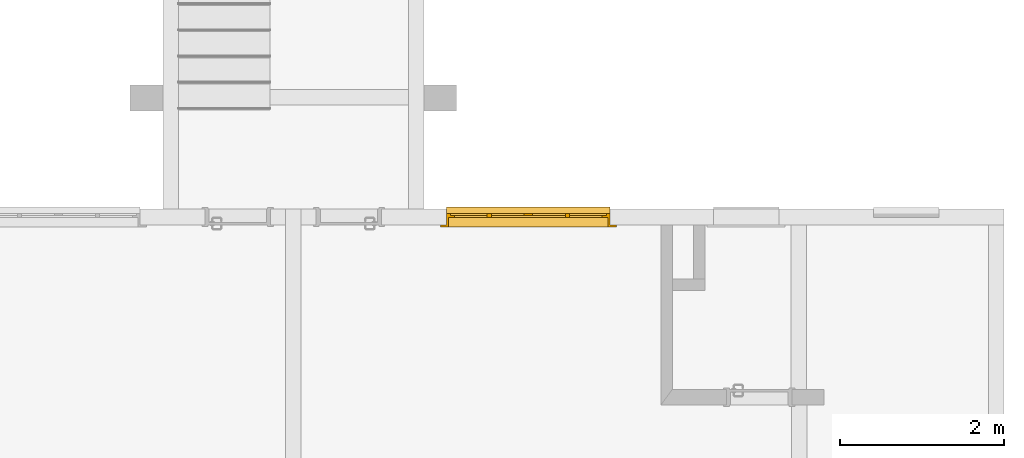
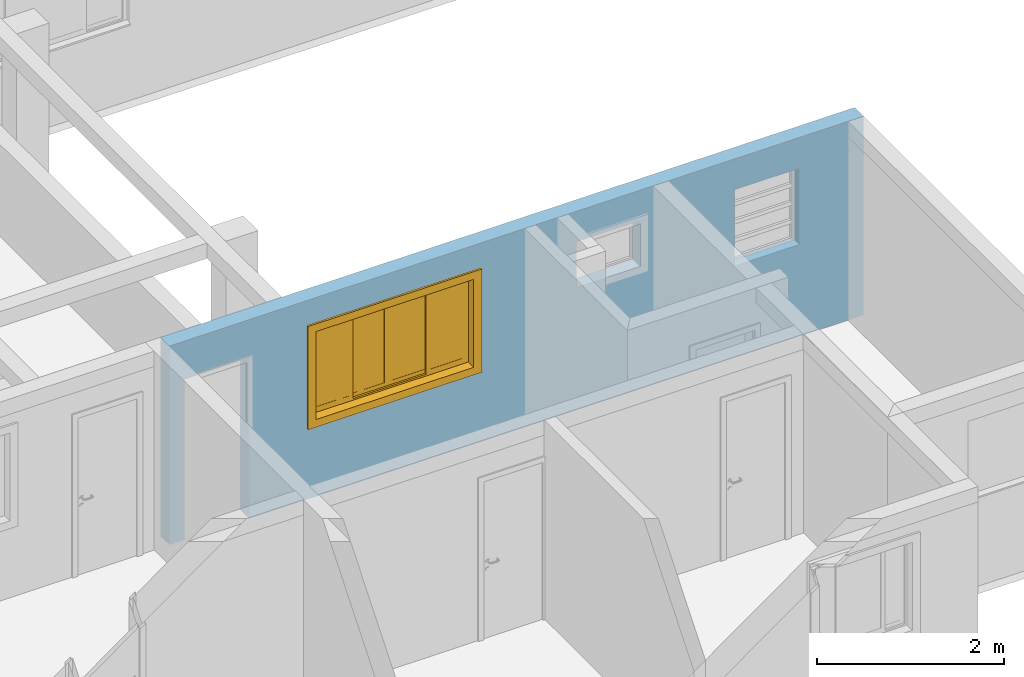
# One storey, part 21 of 43: 1 window, 4 openings, plus 1 element that does not belong to this part.
"""IFC2X3 building model written with IfcOpenShell, lengths in millimetres."""

from ifc_helpers import new_model, entity, si_unit, converted_unit, derived_unit, money_unit, direction, frame, origin_with_axes, origin_2d_with_axis, place, context, subcontext, project, spatial, polyline, rectangle, outline, extrude, open_shell, faceted_brep, surface_model, source, transform, mapped, material, layer, layer_set, layer_usage, type_object, element, fill, save


model = new_model("IFC2X3")

# Units and contexts
model_context = context("Model", 3, precision=0.01, world=origin_with_axes(), true_north=direction((0.0, 1.0)))
body_context = subcontext(model_context, "Body", "Model", "MODEL_VIEW")
ifc_project = project(units=[si_unit("LENGTHUNIT", "METRE", prefix="MILLI"), si_unit("AREAUNIT", "SQUARE_METRE"), si_unit("VOLUMEUNIT", "CUBIC_METRE"), converted_unit("PLANEANGLEUNIT", "DEGREE", entity("IfcPlaneAngleMeasure", 0.0174532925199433), si_unit("PLANEANGLEUNIT", "RADIAN"), dimensions=[0, 0, 0, 0, 0, 0, 0]), money_unit("USD"), converted_unit("TIMEUNIT", "Year", entity("IfcTimeMeasure", 31557600.0), si_unit("TIMEUNIT", "SECOND"), dimensions=[0, 0, 1, 0, 0, 0, 0]), si_unit("MASSUNIT", "GRAM", prefix="KILO"), si_unit("THERMODYNAMICTEMPERATUREUNIT", "DEGREE_CELSIUS"), si_unit("LUMINOUSINTENSITYUNIT", "LUMEN"), si_unit("ENERGYUNIT", "JOULE", prefix="MEGA"), derived_unit("THERMALCONDUCTANCEUNIT", [(si_unit("POWERUNIT", "WATT"), 1), (si_unit("LENGTHUNIT", "METRE"), -1), (si_unit("THERMODYNAMICTEMPERATUREUNIT", "KELVIN"), -1)]), derived_unit("SPECIFICHEATCAPACITYUNIT", [(si_unit("ENERGYUNIT", "JOULE"), 1), (si_unit("MASSUNIT", "GRAM", prefix="KILO"), -1), (si_unit("THERMODYNAMICTEMPERATUREUNIT", "KELVIN"), -1)]), derived_unit("MASSDENSITYUNIT", [(si_unit("MASSUNIT", "GRAM", prefix="KILO"), 1), (si_unit("VOLUMEUNIT", "CUBIC_METRE"), -1)])], contexts=[model_context])

# Site, building, storey
site_placement = place(None, origin_with_axes())
site = spatial("IfcSite", under=ifc_project, at=site_placement, Name="Local", CompositionType="ELEMENT")
building_placement = place(site_placement, origin_with_axes())
building = spatial("IfcBuilding", under=site, at=building_placement, Name="Construção", CompositionType="ELEMENT")
storey_placement = place(building_placement, origin_with_axes())
storey = spatial("IfcBuildingStorey", under=building, at=storey_placement, Name="Pavimento Tipo", CompositionType="ELEMENT", Elevation=0.0)

# Wall, openings, window
ifc_material = material(Name="Concreto - Estrutural")
ifc_layer = layer(ifc_material, 190.0, ventilated="UNKNOWN")
ifc_layer_set = layer_set([ifc_layer], Name="Concreto - Estrutural 190")
ifc_layer_usage = layer_usage(ifc_layer_set, "AXIS2", "NEGATIVE", 0.0)
wall_type = type_object("IfcWallType", Name="Concreto - Estrutural 190", PredefinedType="NOTDEFINED")
wall_placement = place(storey_placement, frame((72476.96486497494, -1757.538479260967, 0.0), z_axis=(0.0, 0.0, 1.0), x_axis=(-1.0, 0.0, 0.0)))
wall = element("IfcWallStandardCase", 1, at=wall_placement, inside=storey, type_object=wall_type, material=ifc_layer_usage, Name="Apartamento 4 - Parede-001", context=body_context, shape_type="SweptSolid", body=[
    extrude(outline(polyline([(0.0, -189.9999999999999), (8584.7651331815, -189.9999999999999), (8584.7651331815, 0.0), (0.0, 0.0), (0.0, -189.9999999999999)])), origin_with_axes(), (0.0, 0.0, 1.0), 2600.0),
])
opening_1_placement = place(wall_placement, frame((1195.000000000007, 0.0, 1200.0), z_axis=(0.0, 0.0, 1.0), x_axis=(1.0, 0.0, 0.0)))
element("IfcOpeningElement", 2, at=opening_1_placement, cuts=wall, Name="Apartamento 4 - J03", context=body_context, shape_type="SweptSolid", body=[
    extrude(rectangle(XDim=800.0000000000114, YDim=1000.0, at=origin_2d_with_axis()), frame((0.0, -139.9999999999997, 500.0), z_axis=(0.0, -1.0, 0.0), x_axis=(-1.0, 0.0, 0.0)), (0.0, 0.0, -1.0), 330.0),
    extrude(rectangle(XDim=800.0000000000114, YDim=1000.0, at=origin_2d_with_axis()), frame((0.0, -139.9999999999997, 500.0), z_axis=(0.0, 1.0, 0.0), x_axis=(-1.0, 0.0, 0.0)), (0.0, 0.0, -1.0), 240.0),
    extrude(rectangle(XDim=800.0000000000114, YDim=30.00000000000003, at=origin_2d_with_axis()), frame((0.0, -105.0, -15.00000000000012), z_axis=(0.0, 1.0, 0.0), x_axis=(-1.0, 0.0, 0.0)), (0.0, 0.0, -1.0), 225.0),
])
opening_2_placement = place(wall_placement, frame((3149.999999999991, 0.0, 1600.0), z_axis=(0.0, 0.0, 1.0), x_axis=(1.0, 0.0, 0.0)))
element("IfcOpeningElement", 3, at=opening_2_placement, cuts=wall, Name="Apartamento 4 - J02", context=body_context, shape_type="SweptSolid", body=[
    extrude(rectangle(XDim=800.0000000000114, YDim=600.0000000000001, at=origin_2d_with_axis()), frame((0.0, 189.9999999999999, 300.0000000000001), z_axis=(0.0, -1.0, 0.0), x_axis=(-1.0, 0.0, 0.0)), (0.0, 0.0, 1.0), 570.0000000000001),
    extrude(rectangle(XDim=800.0000000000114, YDim=30.00000000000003, at=origin_2d_with_axis()), frame((0.0, -155.0000000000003, -15.00000000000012), z_axis=(0.0, 1.0, 0.0), x_axis=(-1.0, 0.0, 0.0)), (0.0, 0.0, -1.0), 225.0),
    extrude(rectangle(XDim=949.9999999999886, YDim=750.0000000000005, at=origin_2d_with_axis()), frame((0.0, 0.0, 300.0000000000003), z_axis=(0.0, -1.0, 0.0), x_axis=(-1.0, 0.0, 0.0)), (0.0, 0.0, -1.0), 190.0),
])
opening_3_placement = place(wall_placement, frame((5810.000000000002, 0.0, 1000.0), z_axis=(0.0, 0.0, 1.0), x_axis=(1.0, 0.0, 0.0)))
opening_3 = element("IfcOpeningElement", 4, at=opening_3_placement, cuts=wall, Name="Apartamento 4 - J01", context=body_context, shape_type="SweptSolid", body=[
    extrude(rectangle(XDim=2000.0, YDim=1200.0, at=origin_2d_with_axis()), frame((0.0, -139.9999999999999, 600.0000000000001), z_axis=(0.0, 1.0, 0.0), x_axis=(1.0, 0.0, 0.0)), (0.0, 0.0, 1.0), 330.0),
    extrude(rectangle(XDim=2000.0, YDim=1200.0, at=origin_2d_with_axis()), frame((0.0, -139.9999999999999, 600.0000000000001), z_axis=(0.0, -1.0, 0.0), x_axis=(1.0, 0.0, 0.0)), (0.0, 0.0, 1.0), 240.0),
    extrude(rectangle(XDim=2150.000000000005, YDim=1350.0, at=origin_2d_with_axis()), frame((0.0, 0.0, 600.0000000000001), z_axis=(0.0, 1.0, 0.0), x_axis=(1.0, 0.0, 0.0)), (0.0, 0.0, 1.0), 240.0),
])
opening_4_placement = place(wall_placement, frame((8000.0, 0.0, 0.0), z_axis=(0.0, 0.0, 1.0), x_axis=(1.0, 0.0, 0.0)))
element("IfcOpeningElement", 5, at=opening_4_placement, cuts=wall, Name="Apartamento 4 - P01", context=body_context, shape_type="SweptSolid", body=[
    extrude(rectangle(XDim=800.0000000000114, YDim=2100.0, at=origin_2d_with_axis()), frame((0.0, 189.9999999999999, 1050.0), z_axis=(0.0, -1.0, 0.0), x_axis=(1.0, 0.0, 0.0)), (0.0, 0.0, 1.0), 570.0000000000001),
    extrude(rectangle(XDim=870.0000000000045, YDim=2135.0, at=origin_2d_with_axis()), frame((0.0, 0.0, 1067.5), z_axis=(0.0, -1.0, 0.0), x_axis=(1.0, 0.0, 0.0)), (0.0, 0.0, -1.0), 190.0),
    extrude(rectangle(XDim=870.0000000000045, YDim=2135.0, at=origin_2d_with_axis()), frame((0.0, -189.9999999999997, 1067.5), z_axis=(0.0, 1.0, 0.0), x_axis=(1.0, 0.0, 0.0)), (0.0, 0.0, -1.0), 190.0),
])
window_style = type_object("IfcWindowStyle", Name="Janela de Correr 4-Folhas 27", ConstructionType="NOTDEFINED", OperationType="USERDEFINED", ParameterTakesPrecedence=False, Sizeable=False)
shared_shape = source(origin_with_axes(), body_context, "Body", "SurfaceModel", [
    faceted_brep([(1000.0, 0.0, 5.0), (1000.0, 50.0, 5.000000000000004), (1000.0, 50.0, 27.37961103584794), (1000.0, 0.0, 30.0), (-1000.0, 0.0, 5.0), (-1000.0, 50.0, 5.000000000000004), (-1000.0, 80.0, 5.000000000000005), (1000.0, 80.0, 5.000000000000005), (1000.0, 80.0, 25.8073776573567), (-1000.0, 80.0, 25.8073776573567), (-1000.0, 50.0, 27.37961103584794), (-1000.0, 0.0, 30.0)], [[[0, 1, 2, 3]], [[0, 4, 5, 6, 7, 1]], [[1, 7, 8, 2]], [[3, 2, 8, 9, 10, 11]], [[4, 0, 3, 11]], [[5, 4, 11, 10]], [[6, 5, 10, 9]], [[7, 6, 9, 8]]]),
    faceted_brep([(1000.0, 0.0, 0.0), (1000.0, 50.0, 0.0), (1000.0, 50.0, 5.0), (1000.0, 0.0, 5.0), (-1000.0, 0.0, 0.0), (-1000.0, 50.0, 0.0), (-1000.0, 50.0, 5.0), (-1000.0, 0.0, 5.0)], [[[0, 1, 2, 3]], [[0, 4, 5, 1]], [[1, 5, 6, 2]], [[3, 2, 6, 7]], [[4, 0, 3, 7]], [[5, 4, 7, 6]]]),
    faceted_brep([(1000.0, -50.0, 0.0), (1000.0, -140.0, 0.0), (-1000.0, -140.0, 0.0), (-1000.0, -50.0, 0.0), (1000.0, -50.00000000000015, 1200.0), (1000.0, -140.0000000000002, 1200.0), (-1000.0, -140.0000000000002, 1200.0), (975.0, -140.0, 24.99999999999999), (-975.0, -140.0, 24.99999999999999), (-975.0, -140.0000000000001, 1175.0), (975.0, -140.0000000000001, 1175.0), (-1000.0, -50.00000000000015, 1200.0), (975.0, -50.0, 24.99999999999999), (975.0, -50.00000000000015, 1175.0), (-975.0, -50.00000000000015, 1175.0), (-975.0, -50.0, 24.99999999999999)], [[[0, 1, 2, 3]], [[4, 5, 1, 0]], [[1, 5, 6, 2], [7, 8, 9, 10]], [[3, 2, 6, 11]], [[0, 3, 11, 4], [12, 13, 14, 15]], [[11, 6, 5, 4]], [[15, 8, 7, 12]], [[14, 9, 8, 15]], [[13, 10, 9, 14]], [[12, 7, 10, 13]]]),
    faceted_brep([(1075.0, -165.0, -75.00000000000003), (975.0, -165.0, 24.99999999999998), (975.0, -140.0, 24.99999999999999), (1075.0, -140.0, -75.00000000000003), (1075.0, -165.0000000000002, 1275.0), (975.0, -165.0000000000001, 1175.0), (975.0, -140.0000000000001, 1175.0), (1075.0, -140.0000000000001, 1275.0)], [[[0, 1, 2, 3]], [[0, 4, 5, 1]], [[1, 5, 6, 2]], [[3, 2, 6, 7]], [[4, 0, 3, 7]], [[5, 4, 7, 6]]]),
    faceted_brep([(-1075.0, -165.0000000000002, 1275.0), (-975.0, -165.0000000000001, 1175.0), (-975.0, -140.0000000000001, 1175.0), (-1075.0, -140.0000000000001, 1275.0), (-1075.0, -165.0, -75.00000000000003), (-975.0, -165.0, 24.99999999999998), (-975.0, -140.0, 24.99999999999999), (-1075.0, -140.0, -75.00000000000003)], [[[0, 1, 2, 3]], [[0, 4, 5, 1]], [[1, 5, 6, 2]], [[3, 2, 6, 7]], [[4, 0, 3, 7]], [[5, 4, 7, 6]]]),
    faceted_brep([(-1075.0, -165.0, -75.00000000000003), (-975.0, -165.0, 24.99999999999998), (-975.0, -140.0, 24.99999999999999), (-1075.0, -140.0, -75.00000000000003), (1075.0, -165.0, -75.00000000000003), (975.0, -165.0, 24.99999999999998), (975.0, -140.0, 24.99999999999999), (1075.0, -140.0, -75.00000000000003)], [[[0, 1, 2, 3]], [[0, 4, 5, 1]], [[1, 5, 6, 2]], [[3, 2, 6, 7]], [[4, 0, 3, 7]], [[5, 4, 7, 6]]]),
    faceted_brep([(1075.0, -165.0000000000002, 1275.0), (975.0, -165.0000000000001, 1175.0), (975.0, -140.0000000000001, 1175.0), (1075.0, -140.0000000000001, 1275.0), (-1075.0, -165.0000000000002, 1275.0), (-975.0, -165.0000000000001, 1175.0), (-975.0, -140.0000000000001, 1175.0), (-1075.0, -140.0000000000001, 1275.0)], [[[0, 1, 2, 3]], [[0, 4, 5, 1]], [[1, 5, 6, 2]], [[3, 2, 6, 7]], [[4, 0, 3, 7]], [[5, 4, 7, 6]]]),
    faceted_brep([(953.0, -50.00000000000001, 47.0), (953.0, -50.00000000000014, 1153.0), (953.0, 0.0, 1153.0), (953.0, 0.0, 47.00000000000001), (1000.0, -50.00000000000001, 47.0), (1000.0, -50.00000000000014, 1153.0), (1000.0, 0.0, 1153.0), (1000.0, 0.0, 47.00000000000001)], [[[0, 1, 2, 3]], [[0, 4, 5, 1]], [[1, 5, 6, 2]], [[3, 2, 6, 7]], [[4, 0, 3, 7]], [[5, 4, 7, 6]]]),
    faceted_brep([(-1000.0, -50.00000000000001, 47.0), (-1000.0, -50.00000000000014, 1153.0), (-1000.0, 0.0, 1153.0), (-1000.0, 0.0, 47.00000000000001), (-953.0, -50.00000000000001, 47.0), (-953.0, -50.00000000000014, 1153.0), (-953.0, 0.0, 1153.0), (-953.0, 0.0, 47.00000000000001)], [[[0, 1, 2, 3]], [[0, 4, 5, 1]], [[1, 5, 6, 2]], [[3, 2, 6, 7]], [[4, 0, 3, 7]], [[5, 4, 7, 6]]]),
    faceted_brep([(-1000.0, -50.00000000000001, 47.0), (-953.0, -50.00000000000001, 47.0), (-953.0, 0.0, 47.00000000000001), (-1000.0, 0.0, 47.00000000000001), (-1000.0, -50.0, 0.0), (1000.0, -50.0, 0.0), (1000.0, -50.00000000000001, 47.0), (953.0, -50.00000000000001, 47.0), (953.0, 0.0, 47.00000000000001), (1000.0, 0.0, 47.00000000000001), (1000.0, 0.0, 0.0), (-1000.0, 0.0, 0.0)], [[[0, 1, 2, 3]], [[0, 4, 5, 6, 7, 1]], [[1, 7, 8, 2]], [[3, 2, 8, 9, 10, 11]], [[4, 0, 3, 11]], [[5, 4, 11, 10]], [[6, 5, 10, 9]], [[7, 6, 9, 8]]]),
    faceted_brep([(-1000.0, -50.00000000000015, 1200.0), (1000.0, -50.00000000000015, 1200.0), (1000.0, 0.0, 1200.0), (-1000.0, 0.0, 1200.0), (-1000.0, -50.00000000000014, 1153.0), (-953.0, -50.00000000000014, 1153.0), (-476.5000000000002, -50.00000000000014, 1153.0), (0.0, -50.00000000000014, 1153.0), (476.4999999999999, -50.00000000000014, 1153.0), (953.0, -50.00000000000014, 1153.0), (1000.0, -50.00000000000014, 1153.0), (1000.0, 0.0, 1153.0), (953.0, 0.0, 1153.0), (476.4999999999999, 0.0, 1153.0), (0.0, 0.0, 1153.0), (-476.5000000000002, 0.0, 1153.0), (-953.0, 0.0, 1153.0), (-1000.0, 0.0, 1153.0)], [[[0, 1, 2, 3]], [[0, 4, 5, 6, 7, 8, 9, 10, 1]], [[1, 10, 11, 2]], [[3, 2, 11, 12, 13, 14, 15, 16, 17]], [[4, 0, 3, 17]], [[5, 4, 17, 16]], [[6, 5, 16, 15]], [[7, 6, 15, 14]], [[8, 7, 14, 13]], [[9, 8, 13, 12]], [[10, 9, 12, 11]]]),
    faceted_brep([(903.0, -50.00000000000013, 1103.0), (953.0, -50.00000000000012, 1103.0), (953.0, -25.00000000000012, 1103.0), (903.0, -25.00000000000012, 1103.0), (903.0, -50.0, 97.0), (953.0, -50.0, 97.0), (953.0, -25.0, 97.0), (903.0, -25.0, 97.0)], [[[0, 1, 2, 3]], [[0, 4, 5, 1]], [[1, 5, 6, 2]], [[3, 2, 6, 7]], [[4, 0, 3, 7]], [[5, 4, 7, 6]]]),
    faceted_brep([(501.4999999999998, -50.00000000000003, 97.0), (451.4999999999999, -50.00000000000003, 97.0), (451.4999999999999, -25.00000000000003, 97.0), (501.4999999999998, -25.00000000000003, 97.0), (501.4999999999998, -50.00000000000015, 1103.0), (451.4999999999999, -50.00000000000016, 1103.0), (451.4999999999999, -25.00000000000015, 1103.0), (501.4999999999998, -25.00000000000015, 1103.0)], [[[0, 1, 2, 3]], [[0, 4, 5, 1]], [[1, 5, 6, 2]], [[3, 2, 6, 7]], [[4, 0, 3, 7]], [[5, 4, 7, 6]]]),
    faceted_brep([(451.4999999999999, -50.00000000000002, 47.0), (451.4999999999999, -50.00000000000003, 97.0), (451.4999999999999, -25.00000000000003, 97.0), (451.4999999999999, -25.00000000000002, 47.0), (953.0, -49.99999999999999, 47.0), (953.0, -50.0, 97.0), (903.0, -50.0, 97.0), (501.4999999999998, -50.00000000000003, 97.0), (501.4999999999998, -25.00000000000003, 97.0), (903.0, -25.0, 97.0), (953.0, -25.0, 97.0), (953.0, -24.99999999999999, 47.0)], [[[0, 1, 2, 3]], [[0, 4, 5, 6, 7, 1]], [[1, 7, 8, 2]], [[3, 2, 8, 9, 10, 11]], [[4, 0, 3, 11]], [[5, 4, 11, 10]], [[6, 5, 10, 9]], [[7, 6, 9, 8]]]),
    faceted_brep([(953.0, -50.00000000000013, 1153.0), (953.0, -50.00000000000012, 1103.0), (953.0, -25.00000000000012, 1103.0), (953.0, -25.00000000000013, 1153.0), (451.4999999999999, -50.00000000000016, 1153.0), (451.4999999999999, -50.00000000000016, 1103.0), (501.4999999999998, -50.00000000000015, 1103.0), (903.0, -50.00000000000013, 1103.0), (903.0, -25.00000000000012, 1103.0), (501.4999999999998, -25.00000000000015, 1103.0), (451.4999999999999, -25.00000000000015, 1103.0), (451.4999999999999, -25.00000000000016, 1153.0)], [[[0, 1, 2, 3]], [[0, 4, 5, 6, 7, 1]], [[1, 7, 8, 2]], [[3, 2, 8, 9, 10, 11]], [[4, 0, 3, 11]], [[5, 4, 11, 10]], [[6, 5, 10, 9]], [[7, 6, 9, 8]]]),
    surface_model("IfcShellBasedSurfaceModel", [(903.0, -47.50000000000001, 97.0), (903.0, -47.50000000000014, 1103.0), (501.4999999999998, -47.50000000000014, 1103.0), (501.4999999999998, -47.50000000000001, 97.0)], [open_shell([[[0, 1, 2, 3]]])]),
    surface_model("IfcShellBasedSurfaceModel", [(903.0, -27.50000000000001, 97.0), (501.4999999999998, -27.50000000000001, 97.0), (501.4999999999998, -27.50000000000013, 1103.0), (903.0, -27.50000000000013, 1103.0)], [open_shell([[[0, 1, 2, 3]]])]),
    faceted_brep([(451.4999999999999, -25.00000000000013, 1103.0), (501.4999999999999, -25.00000000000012, 1103.0), (501.4999999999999, 0.0, 1103.0), (451.4999999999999, 0.0, 1103.0), (451.4999999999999, -25.0, 97.0), (501.4999999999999, -25.0, 97.0), (501.4999999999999, 0.0, 97.0), (451.4999999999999, 0.0, 97.0)], [[[0, 1, 2, 3]], [[0, 4, 5, 1]], [[1, 5, 6, 2]], [[3, 2, 6, 7]], [[4, 0, 3, 7]], [[5, 4, 7, 6]]]),
    faceted_brep([(49.99999999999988, -25.00000000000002, 97.0), (0.0, -25.00000000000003, 97.0), (0.0, 0.0, 97.0), (49.99999999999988, 0.0, 97.0), (49.99999999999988, -25.00000000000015, 1103.0), (0.0, -25.00000000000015, 1103.0), (0.0, 0.0, 1103.0), (49.99999999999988, 0.0, 1103.0)], [[[0, 1, 2, 3]], [[0, 4, 5, 1]], [[1, 5, 6, 2]], [[3, 2, 6, 7]], [[4, 0, 3, 7]], [[5, 4, 7, 6]]]),
    faceted_brep([(0.0, -25.00000000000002, 47.0), (0.0, -25.00000000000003, 97.0), (0.0, 0.0, 97.0), (0.0, 0.0, 47.0), (501.4999999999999, -24.99999999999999, 47.0), (501.4999999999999, -25.0, 97.0), (451.4999999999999, -25.0, 97.0), (49.99999999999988, -25.00000000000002, 97.0), (49.99999999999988, 0.0, 97.0), (451.4999999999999, 0.0, 97.0), (501.4999999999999, 0.0, 97.0), (501.4999999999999, 0.0, 47.0)], [[[0, 1, 2, 3]], [[0, 4, 5, 6, 7, 1]], [[1, 7, 8, 2]], [[3, 2, 8, 9, 10, 11]], [[4, 0, 3, 11]], [[5, 4, 11, 10]], [[6, 5, 10, 9]], [[7, 6, 9, 8]]]),
    faceted_brep([(501.4999999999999, -25.00000000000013, 1153.0), (501.4999999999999, -25.00000000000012, 1103.0), (501.4999999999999, 0.0, 1103.0), (501.4999999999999, 0.0, 1153.0), (0.0, -25.00000000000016, 1153.0), (0.0, -25.00000000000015, 1103.0), (49.99999999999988, -25.00000000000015, 1103.0), (451.4999999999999, -25.00000000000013, 1103.0), (451.4999999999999, 0.0, 1103.0), (49.99999999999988, 0.0, 1103.0), (0.0, 0.0, 1103.0), (0.0, 0.0, 1153.0)], [[[0, 1, 2, 3]], [[0, 4, 5, 6, 7, 1]], [[1, 7, 8, 2]], [[3, 2, 8, 9, 10, 11]], [[4, 0, 3, 11]], [[5, 4, 11, 10]], [[6, 5, 10, 9]], [[7, 6, 9, 8]]]),
    surface_model("IfcShellBasedSurfaceModel", [(451.4999999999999, -22.50000000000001, 97.0), (451.4999999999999, -22.50000000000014, 1103.0), (49.99999999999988, -22.50000000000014, 1103.0), (49.99999999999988, -22.50000000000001, 97.0)], [open_shell([[[0, 1, 2, 3]]])]),
    surface_model("IfcShellBasedSurfaceModel", [(451.4999999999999, -2.500000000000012, 97.0), (49.99999999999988, -2.500000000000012, 97.0), (49.99999999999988, -2.500000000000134, 1103.0), (451.4999999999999, -2.500000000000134, 1103.0)], [open_shell([[[0, 1, 2, 3]]])]),
    faceted_brep([(-50.0000000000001, -25.00000000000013, 1103.0), (0.0, -25.00000000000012, 1103.0), (0.0, 0.0, 1103.0), (-50.0000000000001, 0.0, 1103.0), (-50.0000000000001, -25.0, 97.0), (0.0, -25.0, 97.0), (0.0, 0.0, 97.0), (-50.0000000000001, 0.0, 97.0)], [[[0, 1, 2, 3]], [[0, 4, 5, 1]], [[1, 5, 6, 2]], [[3, 2, 6, 7]], [[4, 0, 3, 7]], [[5, 4, 7, 6]]]),
    faceted_brep([(-451.5000000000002, -25.00000000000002, 97.0), (-501.5000000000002, -25.00000000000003, 97.0), (-501.5000000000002, 0.0, 97.0), (-451.5000000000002, 0.0, 97.0), (-451.5000000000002, -25.00000000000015, 1103.0), (-501.5000000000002, -25.00000000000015, 1103.0), (-501.5000000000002, 0.0, 1103.0), (-451.5000000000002, 0.0, 1103.0)], [[[0, 1, 2, 3]], [[0, 4, 5, 1]], [[1, 5, 6, 2]], [[3, 2, 6, 7]], [[4, 0, 3, 7]], [[5, 4, 7, 6]]]),
    faceted_brep([(-501.5000000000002, -25.00000000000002, 47.0), (-501.5000000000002, -25.00000000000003, 97.0), (-501.5000000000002, 0.0, 97.0), (-501.5000000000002, 0.0, 47.0), (0.0, -24.99999999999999, 47.0), (0.0, -25.0, 97.0), (-50.0000000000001, -25.0, 97.0), (-451.5000000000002, -25.00000000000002, 97.0), (-451.5000000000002, 0.0, 97.0), (-50.0000000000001, 0.0, 97.0), (0.0, 0.0, 97.0), (0.0, 0.0, 47.0)], [[[0, 1, 2, 3]], [[0, 4, 5, 6, 7, 1]], [[1, 7, 8, 2]], [[3, 2, 8, 9, 10, 11]], [[4, 0, 3, 11]], [[5, 4, 11, 10]], [[6, 5, 10, 9]], [[7, 6, 9, 8]]]),
    faceted_brep([(0.0, -25.00000000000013, 1153.0), (0.0, -25.00000000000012, 1103.0), (0.0, 0.0, 1103.0), (0.0, 0.0, 1153.0), (-501.5000000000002, -25.00000000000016, 1153.0), (-501.5000000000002, -25.00000000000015, 1103.0), (-451.5000000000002, -25.00000000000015, 1103.0), (-50.0000000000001, -25.00000000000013, 1103.0), (-50.0000000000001, 0.0, 1103.0), (-451.5000000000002, 0.0, 1103.0), (-501.5000000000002, 0.0, 1103.0), (-501.5000000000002, 0.0, 1153.0)], [[[0, 1, 2, 3]], [[0, 4, 5, 6, 7, 1]], [[1, 7, 8, 2]], [[3, 2, 8, 9, 10, 11]], [[4, 0, 3, 11]], [[5, 4, 11, 10]], [[6, 5, 10, 9]], [[7, 6, 9, 8]]]),
    surface_model("IfcShellBasedSurfaceModel", [(-50.0000000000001, -22.50000000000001, 97.0), (-50.0000000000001, -22.50000000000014, 1103.0), (-451.5000000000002, -22.50000000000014, 1103.0), (-451.5000000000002, -22.50000000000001, 97.0)], [open_shell([[[0, 1, 2, 3]]])]),
    surface_model("IfcShellBasedSurfaceModel", [(-50.0000000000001, -2.500000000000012, 97.0), (-451.5000000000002, -2.500000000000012, 97.0), (-451.5000000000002, -2.500000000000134, 1103.0), (-50.0000000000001, -2.500000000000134, 1103.0)], [open_shell([[[0, 1, 2, 3]]])]),
    faceted_brep([(-501.5000000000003, -50.00000000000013, 1103.0), (-451.5000000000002, -50.00000000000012, 1103.0), (-451.5000000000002, -25.00000000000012, 1103.0), (-501.5000000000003, -25.00000000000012, 1103.0), (-501.5000000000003, -50.0, 97.0), (-451.5000000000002, -50.0, 97.0), (-451.5000000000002, -25.0, 97.0), (-501.5000000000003, -25.0, 97.0)], [[[0, 1, 2, 3]], [[0, 4, 5, 1]], [[1, 5, 6, 2]], [[3, 2, 6, 7]], [[4, 0, 3, 7]], [[5, 4, 7, 6]]]),
    faceted_brep([(-903.0000000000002, -50.00000000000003, 97.0), (-953.0000000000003, -50.00000000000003, 97.0), (-953.0000000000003, -25.00000000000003, 97.0), (-903.0000000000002, -25.00000000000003, 97.0), (-903.0000000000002, -50.00000000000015, 1103.0), (-953.0000000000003, -50.00000000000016, 1103.0), (-953.0000000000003, -25.00000000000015, 1103.0), (-903.0000000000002, -25.00000000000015, 1103.0)], [[[0, 1, 2, 3]], [[0, 4, 5, 1]], [[1, 5, 6, 2]], [[3, 2, 6, 7]], [[4, 0, 3, 7]], [[5, 4, 7, 6]]]),
    faceted_brep([(-953.0000000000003, -50.00000000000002, 47.0), (-953.0000000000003, -50.00000000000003, 97.0), (-953.0000000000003, -25.00000000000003, 97.0), (-953.0000000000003, -25.00000000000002, 47.0), (-451.5000000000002, -49.99999999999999, 47.0), (-451.5000000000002, -50.0, 97.0), (-501.5000000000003, -50.0, 97.0), (-903.0000000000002, -50.00000000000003, 97.0), (-903.0000000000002, -25.00000000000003, 97.0), (-501.5000000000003, -25.0, 97.0), (-451.5000000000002, -25.0, 97.0), (-451.5000000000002, -24.99999999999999, 47.0)], [[[0, 1, 2, 3]], [[0, 4, 5, 6, 7, 1]], [[1, 7, 8, 2]], [[3, 2, 8, 9, 10, 11]], [[4, 0, 3, 11]], [[5, 4, 11, 10]], [[6, 5, 10, 9]], [[7, 6, 9, 8]]]),
    faceted_brep([(-451.5000000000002, -50.00000000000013, 1153.0), (-451.5000000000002, -50.00000000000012, 1103.0), (-451.5000000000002, -25.00000000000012, 1103.0), (-451.5000000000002, -25.00000000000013, 1153.0), (-953.0000000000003, -50.00000000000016, 1153.0), (-953.0000000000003, -50.00000000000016, 1103.0), (-903.0000000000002, -50.00000000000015, 1103.0), (-501.5000000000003, -50.00000000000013, 1103.0), (-501.5000000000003, -25.00000000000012, 1103.0), (-903.0000000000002, -25.00000000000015, 1103.0), (-953.0000000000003, -25.00000000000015, 1103.0), (-953.0000000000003, -25.00000000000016, 1153.0)], [[[0, 1, 2, 3]], [[0, 4, 5, 6, 7, 1]], [[1, 7, 8, 2]], [[3, 2, 8, 9, 10, 11]], [[4, 0, 3, 11]], [[5, 4, 11, 10]], [[6, 5, 10, 9]], [[7, 6, 9, 8]]]),
    surface_model("IfcShellBasedSurfaceModel", [(-501.5000000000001, -47.50000000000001, 97.0), (-501.5000000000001, -47.50000000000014, 1103.0), (-903.0000000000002, -47.50000000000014, 1103.0), (-903.0000000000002, -47.50000000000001, 97.0)], [open_shell([[[0, 1, 2, 3]]])]),
    surface_model("IfcShellBasedSurfaceModel", [(-501.5000000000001, -27.50000000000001, 97.0), (-903.0000000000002, -27.50000000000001, 97.0), (-903.0000000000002, -27.50000000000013, 1103.0), (-501.5000000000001, -27.50000000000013, 1103.0)], [open_shell([[[0, 1, 2, 3]]])]),
])
window_placement = place(opening_3_placement, frame((1000.0, 0.0, 0.0), z_axis=(0.0, 0.0, 1.0), x_axis=(-1.0, 0.0, 0.0)))
window = element("IfcWindow", 6, at=window_placement, inside=storey, type_object=window_style, Name="Apartamento 4 - J01", ObjectType="WINDOW", OverallHeight=1200.0, OverallWidth=2000.0, context=body_context, shape_type="MappedRepresentation", body=[
    mapped(shared_shape, transform((1000.0, 139.9999999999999, 0.0))),
])
fill(opening_3, window)

save(model, "model.ifc")
